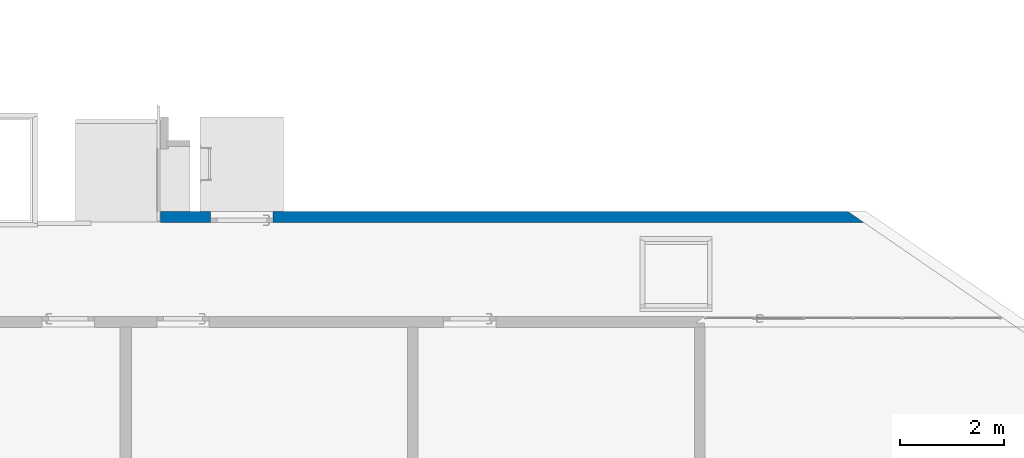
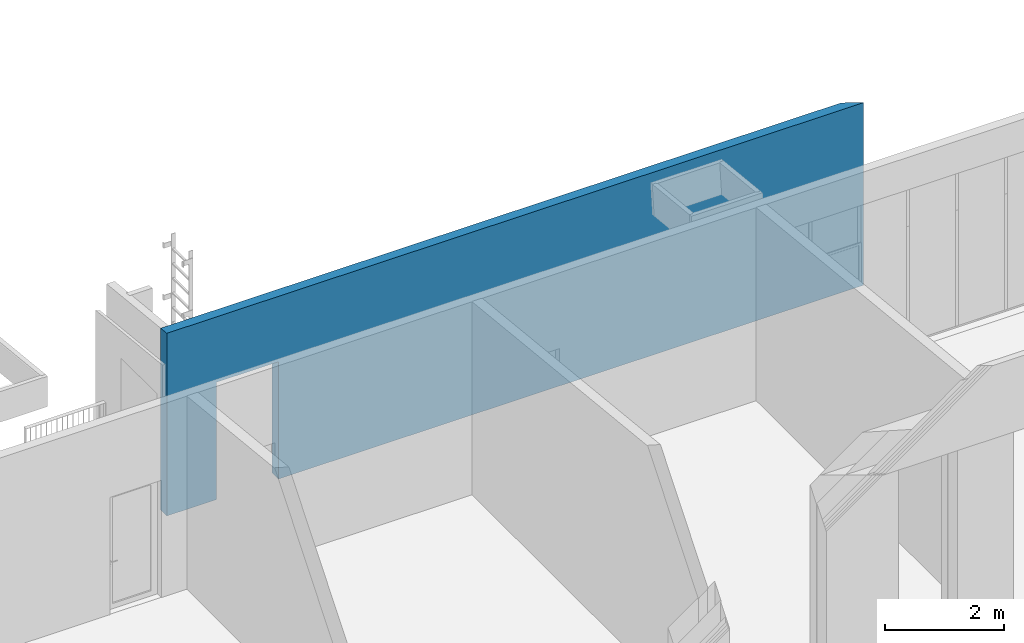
# One storey, part 9 of 23: 1 wall, 1 opening.
"""IFC2X3 building model written with IfcOpenShell, lengths in millimetres."""

from ifc_helpers import new_model, entity, si_unit, converted_unit, derived_unit, money_unit, direction, frame, origin_with_axes, place, context, subcontext, project, spatial, faceted_brep, material, material_list, type_object, element, save


model = new_model("IFC2X3")

# Units and contexts
model_context = context("Model", 3, precision=0.01, world=origin_with_axes(), true_north=direction((0.0, 1.0)))
body_context = subcontext(model_context, "Body", "Model", "MODEL_VIEW")
ifc_project = project(units=[si_unit("LENGTHUNIT", "METRE", prefix="MILLI"), si_unit("AREAUNIT", "SQUARE_METRE"), si_unit("VOLUMEUNIT", "CUBIC_METRE"), converted_unit("PLANEANGLEUNIT", "DEGREE", entity("IfcPlaneAngleMeasure", 0.0174532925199), si_unit("PLANEANGLEUNIT", "RADIAN"), dimensions=[0, 0, 0, 0, 0, 0, 0]), si_unit("SOLIDANGLEUNIT", "STERADIAN"), money_unit("EUR"), converted_unit("TIMEUNIT", "Year", entity("IfcTimeMeasure", 31556926.0), si_unit("TIMEUNIT", "SECOND"), dimensions=[0, 0, 1, 0, 0, 0, 0]), si_unit("MASSUNIT", "GRAM", prefix="KILO"), si_unit("THERMODYNAMICTEMPERATUREUNIT", "DEGREE_CELSIUS"), si_unit("LUMINOUSINTENSITYUNIT", "LUMEN"), si_unit("ENERGYUNIT", "JOULE", prefix="MEGA"), derived_unit("THERMALCONDUCTANCEUNIT", [(si_unit("POWERUNIT", "WATT"), 1), (si_unit("LENGTHUNIT", "METRE"), -1), (si_unit("THERMODYNAMICTEMPERATUREUNIT", "KELVIN"), -1)]), derived_unit("SPECIFICHEATCAPACITYUNIT", [(si_unit("ENERGYUNIT", "JOULE"), 1), (si_unit("MASSUNIT", "GRAM", prefix="KILO"), -1), (si_unit("THERMODYNAMICTEMPERATUREUNIT", "KELVIN"), -1)]), derived_unit("MASSDENSITYUNIT", [(si_unit("MASSUNIT", "GRAM", prefix="KILO"), 1), (si_unit("VOLUMEUNIT", "CUBIC_METRE"), -1)])], contexts=[model_context])

# Site, building, storey
site_placement = place(None, origin_with_axes())
site = spatial("IfcSite", under=ifc_project, at=site_placement, Name="L.Koidula tn 11b", CompositionType="ELEMENT")
building_placement = place(site_placement, origin_with_axes())
building = spatial("IfcBuilding", under=site, at=building_placement, Name="Rakvere Riigigümnaasium", CompositionType="ELEMENT")
storey_placement = place(building_placement, frame((0.0, 0.0, 7440.0), z_axis=(0.0, 0.0, 1.0), x_axis=(1.0, 0.0, 0.0)))
storey = spatial("IfcBuildingStorey", under=building, at=storey_placement, Name="3.korrus +7,44", CompositionType="ELEMENT", Elevation=7440.0)

# Wall, opening
ifc_material_1 = material(Name="Betoon element / plaat")
ifc_material_2 = material(Name="siseviimistlus-seinad")
ifc_material_list = material_list([ifc_material_1, ifc_material_2])
wall_type = type_object("IfcWallType", Name="SS-01-1 210", PredefinedType="NOTDEFINED")
wall_placement = place(storey_placement, frame((75429.9821418, 15100.4785302, 0.0), z_axis=(0.0, 0.0, 1.0), x_axis=(1.0, 0.0, 0.0)))
wall = element("IfcWall", 1, at=wall_placement, inside=storey, type_object=wall_type, material=ifc_material_list, Name="SEIN - 072", context=body_context, shape_type="Brep", body=[
    faceted_brep([(13176.0375826, 200.0, 3715.86936761), (13467.631277, 0.00217717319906, 3736.88555935), (13467.6344513, 0.0, 0.0), (13176.0375826, 200.0, 0.0), (0.0, 5.33173682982e-06, 3737.09022028), (0.0, 200.00000447, 3716.06937354), (0.0, 0.0, 0.0), (960.017862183, 0.0, 0.0), (960.017862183, 0.0, 2400.0), (2160.01786264, 0.0, 2400.0), (2160.01786264, 0.0, 0.0), (2160.01786264, 200.0, 0.0), (2160.01786264, 200.0, 2400.0), (960.017862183, 200.0, 2400.0), (960.017862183, 200.0, 0.0), (0.0, 200.0, 0.0), (0.0, 200.00000447, 125.0)], [[[0, 1, 2, 3]], [[4, 1, 0, 5]], [[1, 4, 6, 7, 8, 9, 10, 2]], [[2, 10, 11, 3]], [[5, 0, 3, 11, 12, 13, 14, 15, 16]], [[4, 5, 16, 15, 6]], [[15, 14, 7, 6]], [[7, 14, 13, 8]], [[8, 13, 12, 9]], [[9, 12, 11, 10]]]),
    faceted_brep([(13467.631277, 0.00217717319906, 3736.88555935), (13482.2142947, -10.0, 3737.93660916), (13482.2142947, -10.0, 0.0), (13467.6344513, 0.0, 0.0), (0.0, -10.0, 3738.14126319), (0.0, 5.33173682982e-06, 3737.09022028), (0.0, -10.0, 125.0), (0.0, -10.0, 0.0), (960.017862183, -10.0, 0.0), (960.017862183, -10.0, 2400.0), (2160.01786264, -10.0, 2400.0), (2160.01786264, -10.0, 0.0), (2160.01786264, 0.0, 0.0), (2160.01786264, -4.4703440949e-07, 2400.0), (960.017862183, -4.47036185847e-07, 2400.0), (960.017862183, 0.0, 0.0), (0.0, 0.0, 0.0)], [[[0, 1, 2, 3]], [[4, 1, 0, 5]], [[1, 4, 6, 7, 8, 9, 10, 11, 2]], [[2, 11, 12, 3]], [[5, 0, 3, 12, 13, 14, 15, 16]], [[4, 5, 16, 7, 6]], [[16, 15, 8, 7]], [[8, 15, 14, 9]], [[9, 14, 13, 10]], [[10, 13, 12, 11]]]),
])
opening_placement = place(wall_placement, frame((1560.01786241, 0.0, 0.0), z_axis=(0.0, 0.0, 1.0), x_axis=(1.0, 0.0, 0.0)))
element("IfcOpeningElement", 2, at=opening_placement, cuts=wall, Name="SU-066", context=body_context, shape_type="Brep", body=[
    faceted_brep([(-600.000000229, -420.0, 0.0), (-600.000000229, -420.0, 2400.0), (-600.000000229, 210.0, 2400.0), (-600.000000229, 210.0, 0.0), (600.000000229, -420.0, 0.0), (600.000000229, -420.0, 2400.0), (600.000000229, 210.0, 2400.0), (600.000000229, 210.0, 0.0)], [[[0, 1, 2, 3]], [[0, 4, 5, 1]], [[1, 5, 6, 2]], [[3, 2, 6, 7]], [[4, 0, 3, 7]], [[5, 4, 7, 6]]]),
])

save(model, "model.ifc")
